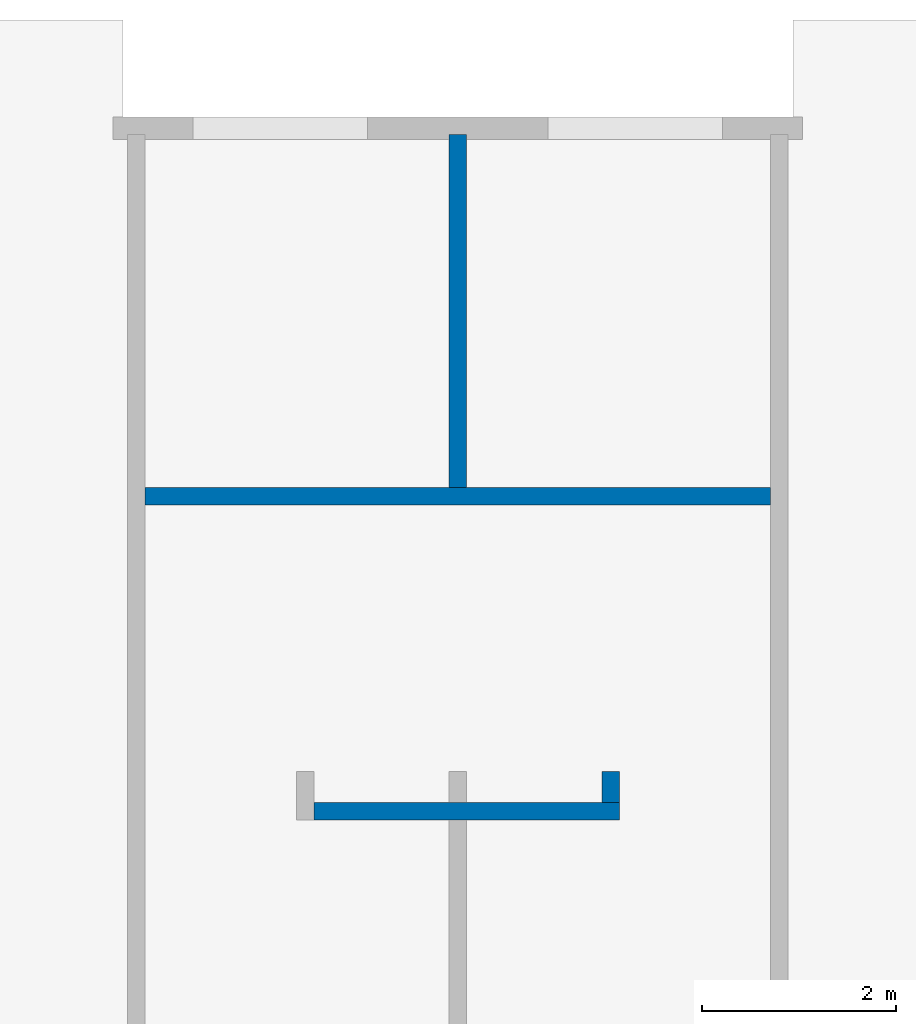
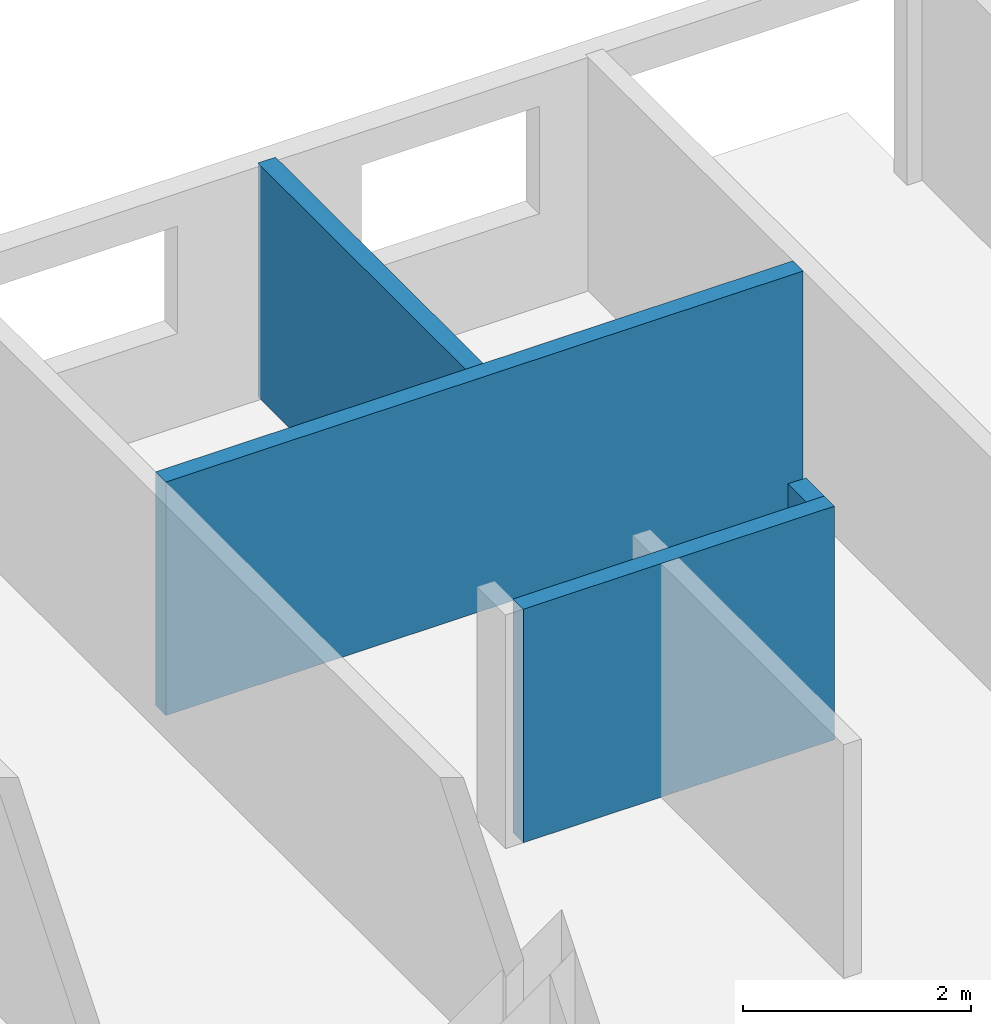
# One storey, part 4 of 9: 4 walls.
"""IFC2X3 building model written with IfcOpenShell, lengths in millimetres."""

from ifc_helpers import new_model, entity, si_unit, converted_unit, frame, frame_2d, origin, origin_with_axes, place, context, subcontext, project, spatial, rectangle, extrude, material, layer, layer_set, layer_usage, element, save


model = new_model("IFC2X3")

# Units and contexts
model_context = context("Model", 3, precision=1e-05, world=origin())
plan_context = context("Plan", 3, precision=1e-05, world=origin())
body_context = subcontext(model_context, "Body", "Model", "MODEL_VIEW")
ifc_project = project(units=[si_unit("LENGTHUNIT", "METRE", prefix="MILLI"), converted_unit("PLANEANGLEUNIT", "DEGREE", entity("IfcPlaneAngleMeasure", 0.0174532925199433), si_unit("PLANEANGLEUNIT", "RADIAN"), dimensions=[0, 0, 0, 0, 0, 0, 0]), si_unit("AREAUNIT", "SQUARE_METRE"), si_unit("VOLUMEUNIT", "CUBIC_METRE")], contexts=[model_context, plan_context])

# Building, storey
building_placement = place(None, origin())
building = spatial("IfcBuilding", under=ifc_project, at=building_placement, Name="Bâtiment", CompositionType="ELEMENT")
storey_placement = place(building_placement, origin_with_axes())
storey = spatial("IfcBuildingStorey", under=building, at=storey_placement, Name="rdc", CompositionType="ELEMENT", Elevation=0.0)

# Walls
ifc_material_1 = material(Name="moellons")
ifc_layer_1 = layer(ifc_material_1, 180.0)
ifc_layer_set_1 = layer_set([ifc_layer_1])
ifc_layer_usage_1 = layer_usage(ifc_layer_set_1, "AXIS2", "POSITIVE", 0.0)
wall_1_placement = place(storey_placement, frame((29804.99999999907, 6650.077765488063, 0.0), z_axis=(0.0, 0.0, 1.0), x_axis=(0.0, 1.0, 0.0)))
element("IfcWallStandardCase", 1, at=wall_1_placement, inside=storey, material=ifc_layer_usage_1, context=body_context, shape_type="SweptSolid", body=[
    extrude(rectangle(XDim=3639.999999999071, YDim=180.0, at=frame_2d((1819.999999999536, 90.0), x_axis=(1.0, 0.0))), origin_with_axes(), (0.0, 0.0, 1.0), 2500.0),
])
ifc_material_2 = material(Name="moellons")
ifc_layer_2 = layer(ifc_material_2, 180.0)
ifc_layer_set_2 = layer_set([ifc_layer_2])
ifc_layer_usage_2 = layer_usage(ifc_layer_set_2, "AXIS2", "POSITIVE", 0.0)
wall_2_placement = place(storey_placement, frame((32939.9995415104, 6650.077765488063, 0.0), z_axis=(0.0, 0.0, 1.0), x_axis=(-1.0, 0.0, 0.0)))
element("IfcWallStandardCase", 2, at=wall_2_placement, inside=storey, material=ifc_layer_usage_2, context=body_context, shape_type="SweptSolid", body=[
    extrude(rectangle(XDim=6449.999479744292, YDim=180.0, at=frame_2d((3224.999739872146, 90.0), x_axis=(1.0, 0.0))), origin_with_axes(), (0.0, 0.0, 1.0), 2500.0),
])
ifc_material_3 = material(Name="moellons")
ifc_layer_3 = layer(ifc_material_3, 180.0)
ifc_layer_set_3 = layer_set([ifc_layer_3])
ifc_layer_usage_3 = layer_usage(ifc_layer_set_3, "AXIS2", "POSITIVE", 0.0)
wall_3_placement = place(storey_placement, frame((31379.99951490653, 3400.077765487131, 0.0), z_axis=(0.0, 0.0, 1.0), x_axis=(-1.0, 0.0, 0.0)))
element("IfcWallStandardCase", 3, at=wall_3_placement, inside=storey, material=ifc_layer_usage_3, context=body_context, shape_type="SweptSolid", body=[
    extrude(rectangle(XDim=3150.000000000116, YDim=180.0, at=frame_2d((1575.000000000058, 90.0), x_axis=(1.0, 0.0))), origin_with_axes(), (0.0, 0.0, 1.0), 2500.0),
])
ifc_material_4 = material(Name="moellons")
ifc_layer_4 = layer(ifc_material_4, 180.0)
ifc_layer_set_4 = layer_set([ifc_layer_4])
ifc_layer_usage_4 = layer_usage(ifc_layer_set_4, "AXIS2", "POSITIVE", 0.0)
wall_4_placement = place(storey_placement, frame((31199.99951490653, 3720.077765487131, 0.0), z_axis=(0.0, 0.0, 1.0), x_axis=(0.0, -1.0, 0.0)))
element("IfcWallStandardCase", 4, at=wall_4_placement, inside=storey, material=ifc_layer_usage_4, context=body_context, shape_type="SweptSolid", body=[
    extrude(rectangle(XDim=320.0, YDim=180.0, at=frame_2d((160.0, 90.0), x_axis=(1.0, 0.0))), origin_with_axes(), (0.0, 0.0, 1.0), 2500.0),
])

save(model, "model.ifc")
